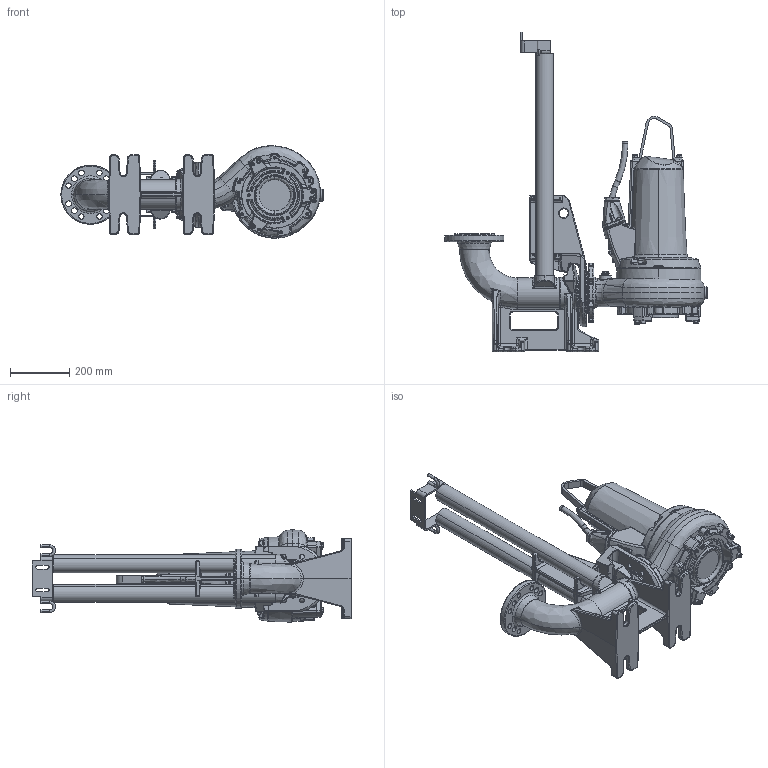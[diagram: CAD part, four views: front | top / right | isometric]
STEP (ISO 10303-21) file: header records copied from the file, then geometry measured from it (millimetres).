
FILE_DESCRIPTION (( 'STEP AP214' ), '1' );
FILE_NAME ('XFP80C-CB1 - Twin Guide Rail[NEW].STEP', '2017-08-10T11:45:21', ( '' ), ( '' ), 'SwSTEP 2.0', 'SolidWorks 2017', '' );
FILE_SCHEMA (( 'AUTOMOTIVE_DESIGN' ));
Length unit declared in the file: inch
Products named in the file (1): XFP80C-CB1 - Twin Guide Rail[NEW]
Bounding box: 887.01 x 1081.66 x 312.09 mm (x, y, z)
Volume: 33614857.3 mm3; surface area: 2200769.6 mm2
Topology: 3 solids, 35 shells, 3446 faces, 8294 edges, 4762 vertices
Faces by surface type: bspline 1550, cylinder 1081, plane 618, cone 197
Entity records: 227282 total; most frequent: CARTESIAN_POINT 114526, ORIENTED_EDGE 16114, DIRECTION 11545, EDGE_CURVE 8057, VERTEX_POINT 4762, AXIS2_PLACEMENT_3D 4563, EDGE_LOOP 3623, LENGTH_MEASURE_WITH_UNIT 3451
